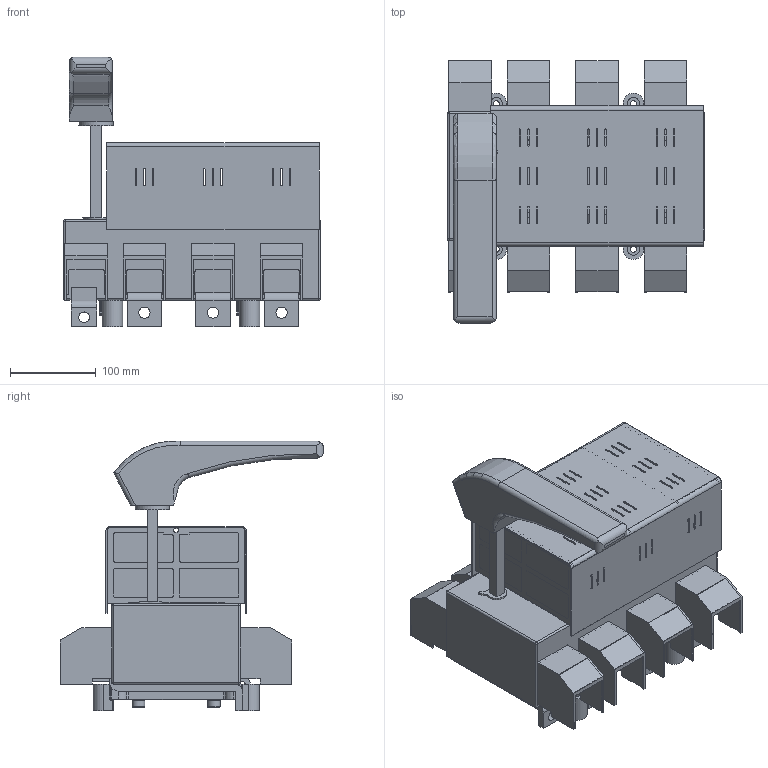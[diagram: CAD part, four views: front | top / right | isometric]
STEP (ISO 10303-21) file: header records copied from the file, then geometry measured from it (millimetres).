
FILE_DESCRIPTION(/* description */ (''),/* implementation_level */ '2;1');
FILE_NAME(/* name */ 'RAB 3 P3 NA z oslona zaciskow.stp',/* time_stamp */ '2021-08-19T14:44:45+02:00',/* author */ (''),/* organization */ (''),/* preprocessor_version */ 'ST-DEVELOPER v18.1',/* originating_system */ 'SIEMENS PLM Software NX 1965',/* authorisation */ '');
FILE_SCHEMA (('AUTOMOTIVE_DESIGN { 1 0 10303 214 3 1 1 1 }'));
Length unit declared in the file: millimetre
Products named in the file (1): RAB 3 P3 NA z oslona zaciskow
Bounding box: 300 x 307 x 314.5 mm (x, y, z)
Volume: 5117511.3 mm3; surface area: 856966.8 mm2
Topology: 2 solids, 15 shells, 1809 faces, 4936 edges, 3184 vertices
Faces by surface type: plane 1111, cylinder 582, bspline 52, torus 48, sphere 8, cone 8
Full cylindrical faces by diameter (mm): 3 x4, 4.8 x4, 5.2 x2, 5.6 x4, 6.5 x26, 7 x4, 10.5 x26, 12.5 x1, 13 x7, 13.5 x4, 14 x4, 15 x4, 40 x1
Entity records: 59558 total; most frequent: CARTESIAN_POINT 13585, ORIENTED_EDGE 9558, DIRECTION 9404, EDGE_CURVE 4779, LINE 3370, VECTOR 3370, VERTEX_POINT 3147, AXIS2_PLACEMENT_3D 3017
